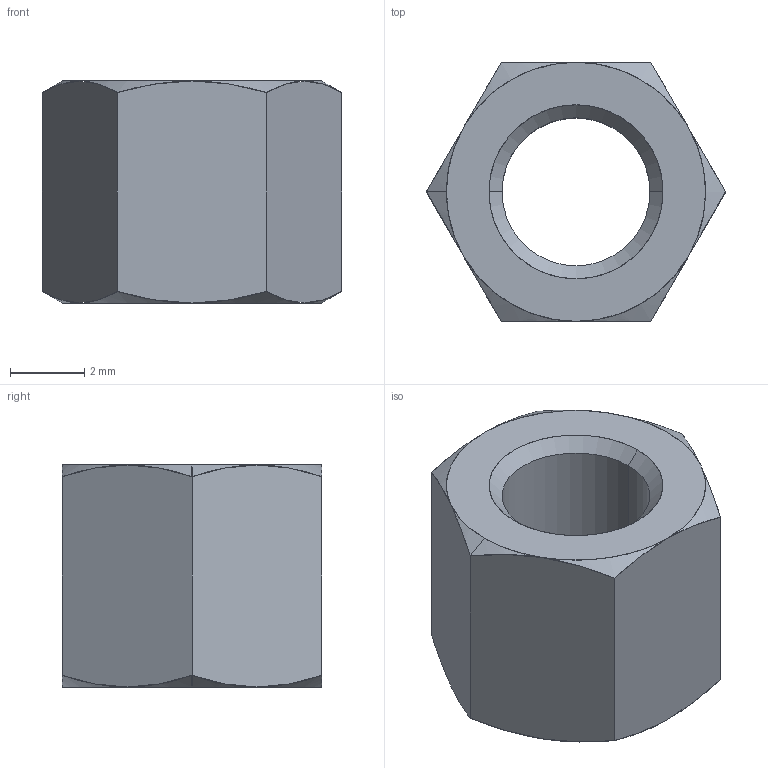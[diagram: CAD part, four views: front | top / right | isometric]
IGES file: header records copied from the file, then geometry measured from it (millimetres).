
Start section: SolidWorks IGES file using analytic representation for surfaces
Global section: file name: C:\Users\ianosborn\Desktop\N0503.NP_v2\N0503.NP_v2_20250227_IGES\N0503.040-006-NP.igs; native system: SolidWorks 2019; preprocessor: SolidWorks 2019; author: IanOsborn; date: 250227.144209; units: millimetre
Bounding box: 8.08 x 7 x 6 mm (x, y, z)
Surface area: 271.8 mm2 (no closed solid volume)
Topology: 0 solids, 0 shells, 28 faces, 286 edges, 286 vertices
Faces by surface type: revolution 20, bspline 8
